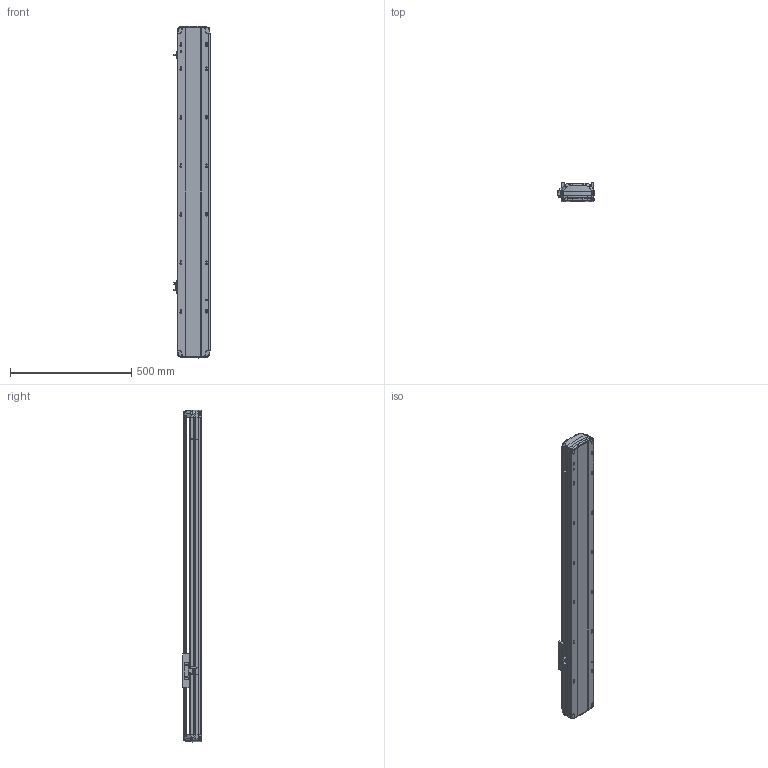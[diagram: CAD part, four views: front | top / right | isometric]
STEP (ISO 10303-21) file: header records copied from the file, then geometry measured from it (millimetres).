
FILE_DESCRIPTION (( 'STEP AP214' ), '1' );
FILE_NAME ('RTH14-XX-950-B-M20B-C4.STEP', '2025-10-24T08:40:41', ( 'Microsoft' ), ( 'Microsoft' ), 'SwSTEP 2.0', 'SolidWorks 2018', '' );
FILE_SCHEMA (( 'AUTOMOTIVE_DESIGN' ));
Length unit declared in the file: millimetre
Products named in the file (7): RTH14-XX-950-B-M20B-C4; N_RTH14-B-011PB菁釱^RTH14-XX-XX-B-M20B-C4; N_OMRON EE-SX672 传感器^RTH14-XX-XX-B-M20B-C4; N_RTH14-R-004-SFSR16賑釱^RTH14-XX-XX-B-M20B-C4; N_RTH13-L-012感应片（外置）^RTH14-XX-XX-B-M20B-C4; N_RTH14-GY-001P^RTH14-XX-XX-B-M20B-C4; N_RTH14-B-007B奻裔^RTH14-XX-XX-B-M20B-C4
Assembly tree (9 placements, depth 2):
  RTH14-XX-950-B-M20B-C4
    N_RTH14-B-011PB菁釱^RTH14-XX-XX-B-M20B-C4
    N_RTH14-B-007B奻裔^RTH14-XX-XX-B-M20B-C4
    N_RTH13-L-012感应片（外置）^RTH14-XX-XX-B-M20B-C4
    N_OMRON EE-SX672 传感器^RTH14-XX-XX-B-M20B-C4  x3
    N_RTH14-R-004-SFSR16賑釱^RTH14-XX-XX-B-M20B-C4
    N_RTH14-GY-001P^RTH14-XX-XX-B-M20B-C4  x2
Bounding box: 148.5 x 78.02 x 1368.74 mm (x, y, z)
Volume: 5513325.4 mm3; surface area: 1264348.1 mm2
Topology: 9 solids, 9 shells, 1954 faces, 5512 edges, 3590 vertices
Faces by surface type: plane 987, cylinder 453, bspline 450, cone 56, torus 8
Entity records: 47988 total; most frequent: CARTESIAN_POINT 21194, ORIENTED_EDGE 6040, DIRECTION 4503, EDGE_CURVE 3020, VERTEX_POINT 1976, VECTOR 1683, LINE 1683, AXIS2_PLACEMENT_3D 1410
